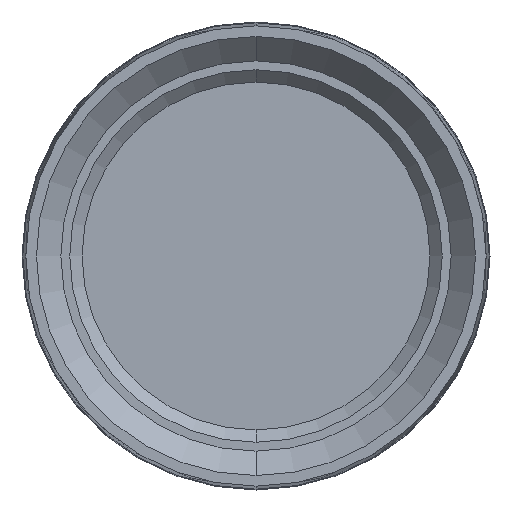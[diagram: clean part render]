
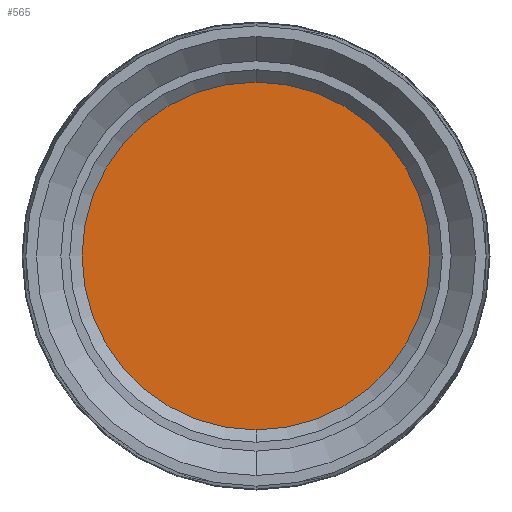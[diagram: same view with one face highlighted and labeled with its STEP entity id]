
A CAD part, front view. The second image highlights one B-rep face of the part: STEP entity #565.
In plain terms, the highlighted planar face has unit normal (0, -1, 0).
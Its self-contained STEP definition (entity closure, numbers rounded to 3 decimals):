
#35 = FACE_OUTER_BOUND ( 'NONE', #162, .T. ) ;
#52 = CARTESIAN_POINT ( 'NONE',  ( 0., 22.532, 0. ) ) ;
#60 = EDGE_CURVE ( 'NONE', #669, #673, #452, .T. ) ;
#85 = CARTESIAN_POINT ( 'NONE',  ( 0., 22.532, -7.06 ) ) ;
#114 = ORIENTED_EDGE ( 'NONE', *, *, #60, .T. ) ;
#129 = EDGE_CURVE ( 'NONE', #673, #669, #438, .T. ) ;
#162 = EDGE_LOOP ( 'NONE', ( #185, #114 ) ) ;
#185 = ORIENTED_EDGE ( 'NONE', *, *, #129, .T. ) ;
#195 = DIRECTION ( 'NONE',  ( 0., 0., 1. ) ) ;
#262 = DIRECTION ( 'NONE',  ( 0., -1., 0. ) ) ;
#359 = CARTESIAN_POINT ( 'NONE',  ( 0., 22.532, 7.06 ) ) ;
#438 = CIRCLE ( 'NONE', #717, 7.06 ) ;
#452 = CIRCLE ( 'NONE', #549, 7.06 ) ;
#479 = DIRECTION ( 'NONE',  ( 0., 0., 1. ) ) ;
#541 = CARTESIAN_POINT ( 'NONE',  ( 0., 22.532, 0. ) ) ;
#549 = AXIS2_PLACEMENT_3D ( 'NONE', #647, #593, #695 ) ;
#553 = DIRECTION ( 'NONE',  ( 0., 1., 0. ) ) ;
#565 = ADVANCED_FACE ( 'NONE', ( #35 ), #708, .F. ) ;
#593 = DIRECTION ( 'NONE',  ( 0., -1., 0. ) ) ;
#632 = AXIS2_PLACEMENT_3D ( 'NONE', #52, #553, #195 ) ;
#647 = CARTESIAN_POINT ( 'NONE',  ( 0., 22.532, 0. ) ) ;
#669 = VERTEX_POINT ( 'NONE', #359 ) ;
#673 = VERTEX_POINT ( 'NONE', #85 ) ;
#695 = DIRECTION ( 'NONE',  ( 0., 0., 1. ) ) ;
#708 = PLANE ( 'NONE',  #632 ) ;
#717 = AXIS2_PLACEMENT_3D ( 'NONE', #541, #262, #479 ) ;
